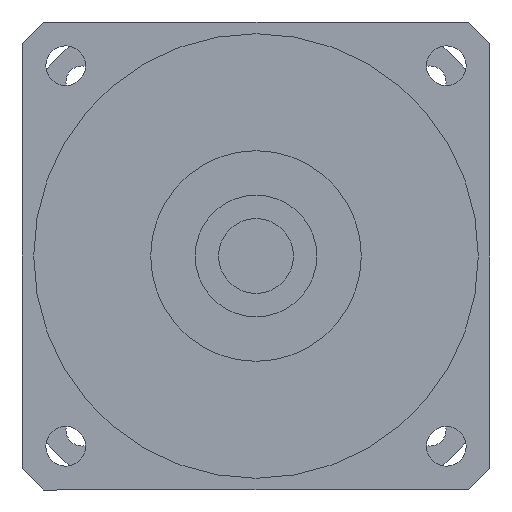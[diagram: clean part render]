
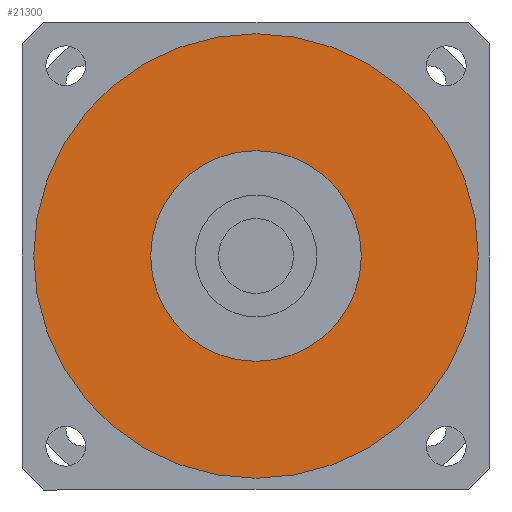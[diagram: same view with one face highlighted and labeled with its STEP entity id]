
A CAD part, left-side view. The second image highlights one B-rep face of the part: STEP entity #21300.
In plain terms, the highlighted planar face has unit normal (-1, 0, 0) as drawn and (0, 0, -1) by its records, which use the part's own axes.
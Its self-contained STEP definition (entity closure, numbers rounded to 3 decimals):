
#20720=CARTESIAN_POINT('',(-47.5,0.,-125.5));
#20730=VERTEX_POINT('',#20720);
#20820=CARTESIAN_POINT('',(47.5,0.,-125.5));
#20830=VERTEX_POINT('',#20820);
#20860=CARTESIAN_POINT('',(0.,0.,
-125.5));
#20870=DIRECTION('',(0.,0.,1.));
#20880=DIRECTION('',(0.,-1.,0.));
#20890=AXIS2_PLACEMENT_3D('',#20860,#20870,#20880);
#20900=CIRCLE('',#20890,47.5);
#20910=CARTESIAN_POINT('',(0.,-47.5,-125.5));
#20920=VERTEX_POINT('',#20910);
#20930=EDGE_CURVE('',#20920,#20830,#20900,.T.);
#20950=EDGE_CURVE('',#20730,#20920,#20900,.T.);
#21000=CARTESIAN_POINT('',(0.,0.,
-125.5));
#21010=DIRECTION('',(0.,0.,1.));
#21020=DIRECTION('',(-1.,0.,0.));
#21030=AXIS2_PLACEMENT_3D('',#21000,#21010,#21020);
#21040=PLANE('',#21030);
#21050=CARTESIAN_POINT('',(0.,0.,
-125.5));
#21060=DIRECTION('',(0.,0.,1.));
#21070=DIRECTION('',(0.,-1.,0.));
#21080=AXIS2_PLACEMENT_3D('',#21050,#21060,#21070);
#21090=CIRCLE('',#21080,22.5);
#21100=CARTESIAN_POINT('',(22.5,0.,-125.5));
#21110=VERTEX_POINT('',#21100);
#21120=CARTESIAN_POINT('',(-22.5,0.,-125.5));
#21130=VERTEX_POINT('',#21120);
#21140=EDGE_CURVE('',#21110,#21130,#21090,.T.);
#21150=ORIENTED_EDGE('',*,*,#21140,.T.);
#21160=CARTESIAN_POINT('',(0.,-22.5,-125.5));
#21170=VERTEX_POINT('',#21160);
#21180=EDGE_CURVE('',#21170,#21110,#21090,.T.);
#21190=ORIENTED_EDGE('',*,*,#21180,.T.);
#21200=EDGE_CURVE('',#21130,#21170,#21090,.T.);
#21210=ORIENTED_EDGE('',*,*,#21200,.T.);
#21220=EDGE_LOOP('',(#21210,#21190,#21150));
#21230=FACE_BOUND('',#21220,.T.);
#21240=ORIENTED_EDGE('',*,*,#20930,.F.);
#21250=EDGE_CURVE('',#20830,#20730,#20900,.T.);
#21260=ORIENTED_EDGE('',*,*,#21250,.F.);
#21270=ORIENTED_EDGE('',*,*,#20950,.F.);
#21280=EDGE_LOOP('',(#21270,#21260,#21240));
#21290=FACE_OUTER_BOUND('',#21280,.T.);
#21300=ADVANCED_FACE('',(#21230,#21290),#21040,.F.);
